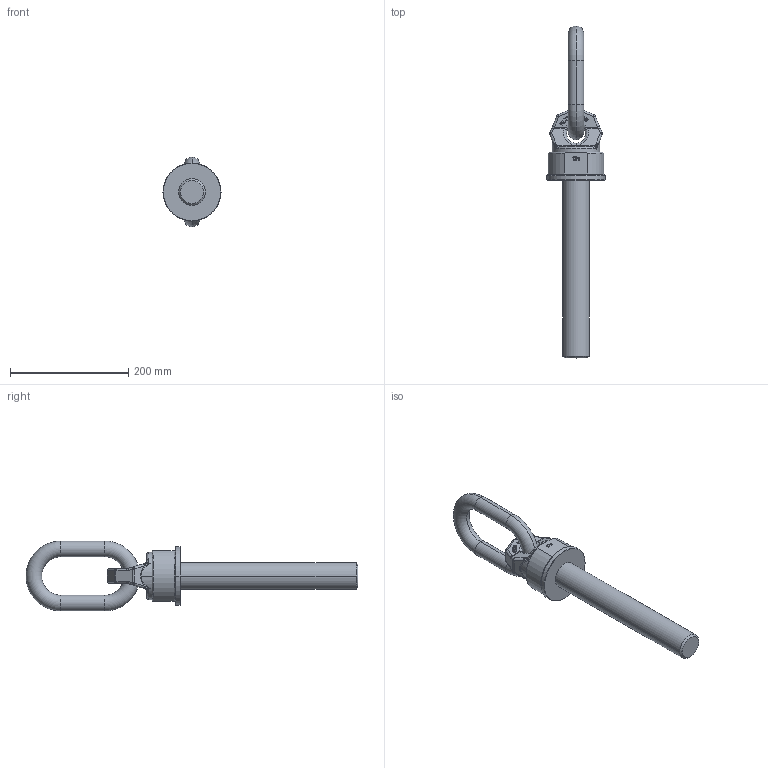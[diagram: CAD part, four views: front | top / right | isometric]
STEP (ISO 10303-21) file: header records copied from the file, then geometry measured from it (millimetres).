
FILE_DESCRIPTION((''),'2;1');
FILE_NAME('001-M34115-P-10_ASM','2019-06-27T',('anja.joas'),(''),'PRO/ENGINEER BY PARAMETRIC TECHNOLOGY CORPORATION, 2011490','PRO/ENGINEER BY PARAMETRIC TECHNOLOGY CORPORATION, 2011490','');
FILE_SCHEMA(('CONFIG_CONTROL_DESIGN'));
Length unit declared in the file: millimetre
Products named in the file (4): 001-M33245-P-10_AF0; 001-M33243-P-10; 001-M31050-P-03; 001-M34115-P-10_ASM
Assembly tree (3 placements, depth 2):
  001-M34115-P-10_ASM
    001-M33245-P-10_AF0
    001-M33243-P-10
    001-M31050-P-03
Bounding box: 98 x 560.5 x 118 mm (x, y, z)
Volume: 1200944.9 mm3; surface area: 130988.7 mm2
Topology: 3 solids, 3 shells, 426 faces, 1133 edges, 724 vertices
Faces by surface type: plane 289, cylinder 63, bspline 56, torus 10, cone 8
Entity records: 14912 total; most frequent: CARTESIAN_POINT 4609, ORIENTED_EDGE 2258, DIRECTION 1901, EDGE_CURVE 1129, VECTOR 851, LINE 851, VERTEX_POINT 724, AXIS2_PLACEMENT_3D 525
